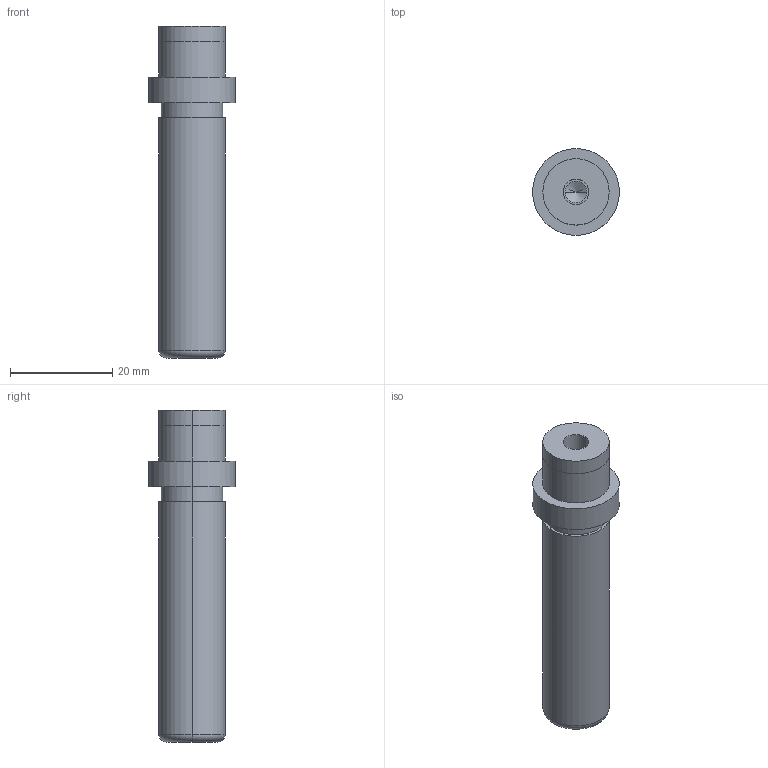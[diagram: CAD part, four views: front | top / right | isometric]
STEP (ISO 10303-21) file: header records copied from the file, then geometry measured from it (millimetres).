
FILE_DESCRIPTION(/* description */ (''),/* implementation_level */ '2;1');
FILE_NAME(/* name */ '3d_sgpw13-55_05302_r00.stp',/* time_stamp */ '2011-01-10T14:11:05+09:00',/* author */ ('MISUMI'),/* organization */ (''),/* preprocessor_version */ 'ST-DEVELOPER v11',/* originating_system */ 'UGS - NX 5.0',/* authorisation */ '');
FILE_SCHEMA (('CONFIG_CONTROL_DESIGN'));
Length unit declared in the file: millimetre
Products named in the file (1): 3d_sgpw13-55_05302_r00
Bounding box: 17 x 17 x 65 mm (x, y, z)
Volume: 8463.7 mm3; surface area: 3623.8 mm2
Topology: 1 solids, 1 shells, 31 faces, 64 edges, 38 vertices
Faces by surface type: cylinder 18, plane 7, cone 4, torus 2
Entity records: 890 total; most frequent: DIRECTION 162, CARTESIAN_POINT 130, ORIENTED_EDGE 120, AXIS2_PLACEMENT_3D 70, EDGE_CURVE 60, EDGE_LOOP 38, CIRCLE 38, VERTEX_POINT 38
